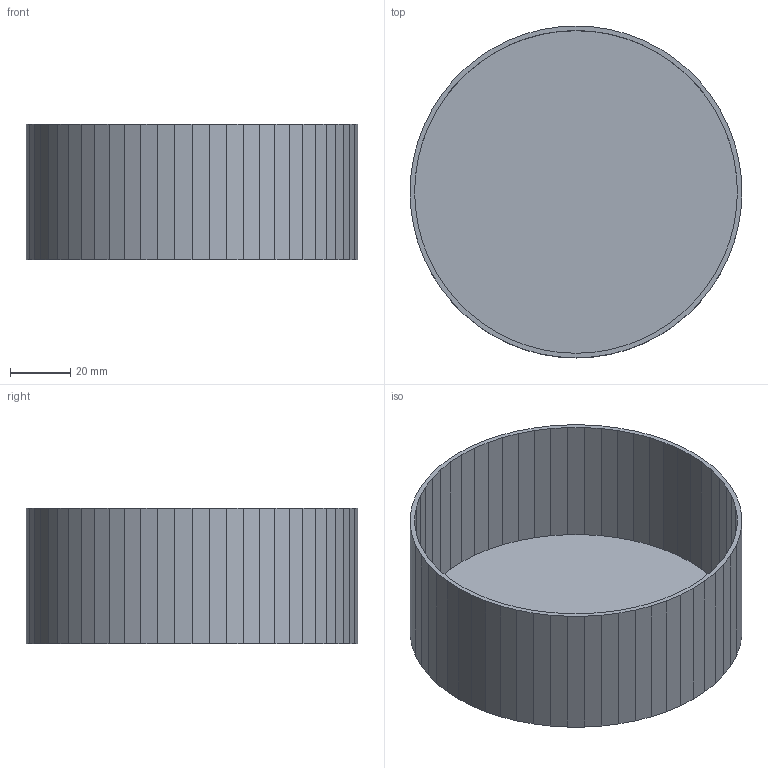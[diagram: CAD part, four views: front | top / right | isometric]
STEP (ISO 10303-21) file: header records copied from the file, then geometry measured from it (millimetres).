
FILE_DESCRIPTION(('Open CASCADE Model'),'2;1');
FILE_NAME('Open CASCADE Shape Model','2026-08-07T13:51:20',('Author'),( 'Open CASCADE'),'Open CASCADE STEP processor 7.9','Open CASCADE 7.9' ,'Unknown');
FILE_SCHEMA(('AUTOMOTIVE_DESIGN { 1 0 10303 214 1 1 1 1 }'));
Length unit declared in the file: millimetre
Products named in the file (1): 金屬爐盆(外購)
Bounding box: 110 x 110 x 45 mm (x, y, z)
Volume: 36429.6 mm3; surface area: 49131.6 mm2
Topology: 1 solids, 1 shells, 123 faces, 360 edges, 240 vertices
Faces by surface type: plane 123
Entity records: 8684 total; most frequent: CARTESIAN_POINT 1444, DIRECTION 1328, LINE 1080, VECTOR 1080, ORIENTED_EDGE 720, PCURVE 720, DEFINITIONAL_REPRESENTATION 720, EDGE_CURVE 360
